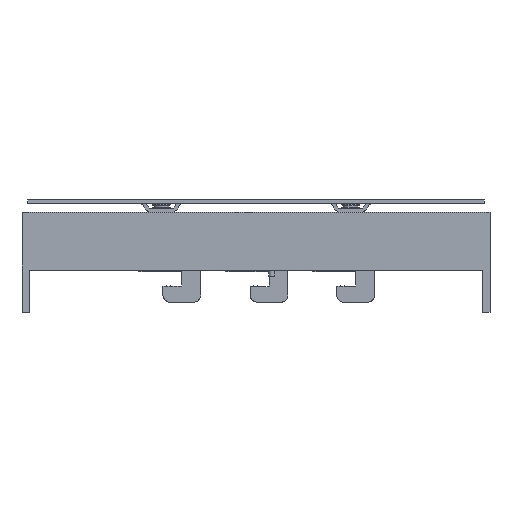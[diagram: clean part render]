
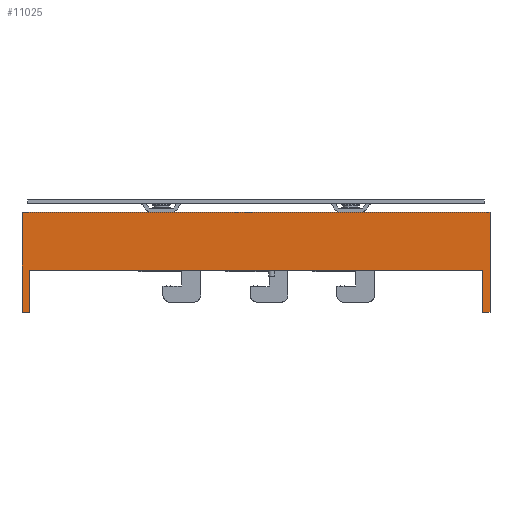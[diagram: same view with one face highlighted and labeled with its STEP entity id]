
A CAD part, left-side view. The second image highlights one B-rep face of the part: STEP entity #11025.
In plain terms, the highlighted planar face has unit normal (-1, 0, 0).
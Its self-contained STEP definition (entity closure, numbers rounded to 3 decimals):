
#1345 = VECTOR ( 'NONE', #12901, 1000. ) ;
#1661 = EDGE_CURVE ( 'NONE', #5601, #12865, #9763, .T. ) ;
#2245 = CARTESIAN_POINT ( 'NONE',  ( -92., 156.5, -39. ) ) ;
#3714 = LINE ( 'NONE', #31108, #30572 ) ;
#4303 = EDGE_CURVE ( 'NONE', #20991, #33529, #29927, .T. ) ;
#4353 = EDGE_CURVE ( 'NONE', #30451, #35730, #35996, .T. ) ;
#4665 = ORIENTED_EDGE ( 'NONE', *, *, #1661, .T. ) ;
#4704 = LINE ( 'NONE', #30867, #20033 ) ;
#5507 = CARTESIAN_POINT ( 'NONE',  ( -92., -156.5, -10. ) ) ;
#5515 = VERTEX_POINT ( 'NONE', #20028 ) ;
#5601 = VERTEX_POINT ( 'NONE', #32497 ) ;
#5718 = CARTESIAN_POINT ( 'NONE',  ( -92., -161.5, -4.5 ) ) ;
#6389 = VECTOR ( 'NONE', #14437, 1000. ) ;
#6887 = LINE ( 'NONE', #20421, #6389 ) ;
#8146 = EDGE_CURVE ( 'NONE', #5515, #15235, #6887, .T. ) ;
#8781 = DIRECTION ( 'NONE',  ( 0., -1., 0. ) ) ;
#9296 = VECTOR ( 'NONE', #9669, 1000. ) ;
#9669 = DIRECTION ( 'NONE',  ( 0., 0., -1. ) ) ;
#9763 = LINE ( 'NONE', #12403, #1345 ) ;
#10006 = VECTOR ( 'NONE', #8781, 1000. ) ;
#10698 = CARTESIAN_POINT ( 'NONE',  ( -92., 130.5, -10. ) ) ;
#11025 = ADVANCED_FACE ( 'NONE', ( #16956 ), #28451, .T. ) ;
#11300 = DIRECTION ( 'NONE',  ( 0., 0., -1. ) ) ;
#11321 = DIRECTION ( 'NONE',  ( 0., 0., 1. ) ) ;
#12403 = CARTESIAN_POINT ( 'NONE',  ( -92., 130.5, -10. ) ) ;
#12865 = VERTEX_POINT ( 'NONE', #20851 ) ;
#12901 = DIRECTION ( 'NONE',  ( 0., -1., 0. ) ) ;
#14065 = DIRECTION ( 'NONE',  ( 0., -1., 0. ) ) ;
#14136 = VECTOR ( 'NONE', #14065, 1000. ) ;
#14437 = DIRECTION ( 'NONE',  ( 0., -1., 0. ) ) ;
#14555 = CARTESIAN_POINT ( 'NONE',  ( -92., 161.5, 30. ) ) ;
#15188 = EDGE_CURVE ( 'NONE', #30451, #20991, #37603, .T. ) ;
#15235 = VERTEX_POINT ( 'NONE', #30241 ) ;
#15392 = ORIENTED_EDGE ( 'NONE', *, *, #8146, .T. ) ;
#15725 = DIRECTION ( 'NONE',  ( 0., -1., 0. ) ) ;
#16645 = DIRECTION ( 'NONE',  ( -1., 0., 0. ) ) ;
#16956 = FACE_OUTER_BOUND ( 'NONE', #21115, .T. ) ;
#17249 = LINE ( 'NONE', #2245, #21433 ) ;
#17561 = ORIENTED_EDGE ( 'NONE', *, *, #33166, .T. ) ;
#19115 = DIRECTION ( 'NONE',  ( 0., 0., 1. ) ) ;
#19755 = CARTESIAN_POINT ( 'NONE',  ( -92., 85.5, -39. ) ) ;
#19919 = VECTOR ( 'NONE', #11300, 1000. ) ;
#19926 = ORIENTED_EDGE ( 'NONE', *, *, #26208, .F. ) ;
#19956 = LINE ( 'NONE', #5718, #19919 ) ;
#20028 = CARTESIAN_POINT ( 'NONE',  ( -92., -156.5, -39. ) ) ;
#20033 = VECTOR ( 'NONE', #15725, 1000. ) ;
#20421 = CARTESIAN_POINT ( 'NONE',  ( -92., -85.5, -39. ) ) ;
#20851 = CARTESIAN_POINT ( 'NONE',  ( -92., -10.75, -10. ) ) ;
#20974 = EDGE_CURVE ( 'NONE', #34613, #5515, #3714, .T. ) ;
#20991 = VERTEX_POINT ( 'NONE', #25662 ) ;
#21115 = EDGE_LOOP ( 'NONE', ( #4665, #33246, #31997, #15392, #19926, #21657, #25918, #32003, #17561 ) ) ;
#21433 = VECTOR ( 'NONE', #11321, 1000. ) ;
#21657 = ORIENTED_EDGE ( 'NONE', *, *, #4353, .F. ) ;
#22276 = CARTESIAN_POINT ( 'NONE',  ( -92., -161.5, 30. ) ) ;
#22291 = DIRECTION ( 'NONE',  ( 0., 0., -1. ) ) ;
#24666 = CARTESIAN_POINT ( 'NONE',  ( -92., 161.5, -39. ) ) ;
#25662 = CARTESIAN_POINT ( 'NONE',  ( -92., 161.5, -39. ) ) ;
#25918 = ORIENTED_EDGE ( 'NONE', *, *, #15188, .T. ) ;
#26208 = EDGE_CURVE ( 'NONE', #35730, #15235, #19956, .T. ) ;
#26518 = CARTESIAN_POINT ( 'NONE',  ( -92., -156.5, 30. ) ) ;
#27617 = EDGE_CURVE ( 'NONE', #12865, #34613, #4704, .T. ) ;
#28451 = PLANE ( 'NONE',  #37425 ) ;
#29927 = LINE ( 'NONE', #19755, #14136 ) ;
#30241 = CARTESIAN_POINT ( 'NONE',  ( -92., -161.5, -39. ) ) ;
#30451 = VERTEX_POINT ( 'NONE', #14555 ) ;
#30572 = VECTOR ( 'NONE', #22291, 1000. ) ;
#30867 = CARTESIAN_POINT ( 'NONE',  ( -92., 130.5, -10. ) ) ;
#30965 = CARTESIAN_POINT ( 'NONE',  ( -92., 156.5, -39. ) ) ;
#31108 = CARTESIAN_POINT ( 'NONE',  ( -92., -156.5, 30. ) ) ;
#31997 = ORIENTED_EDGE ( 'NONE', *, *, #20974, .T. ) ;
#32003 = ORIENTED_EDGE ( 'NONE', *, *, #4303, .T. ) ;
#32497 = CARTESIAN_POINT ( 'NONE',  ( -92., 156.5, -10. ) ) ;
#33166 = EDGE_CURVE ( 'NONE', #33529, #5601, #17249, .T. ) ;
#33246 = ORIENTED_EDGE ( 'NONE', *, *, #27617, .T. ) ;
#33529 = VERTEX_POINT ( 'NONE', #30965 ) ;
#34613 = VERTEX_POINT ( 'NONE', #5507 ) ;
#35730 = VERTEX_POINT ( 'NONE', #22276 ) ;
#35996 = LINE ( 'NONE', #26518, #10006 ) ;
#37425 = AXIS2_PLACEMENT_3D ( 'NONE', #10698, #16645, #19115 ) ;
#37603 = LINE ( 'NONE', #24666, #9296 ) ;
